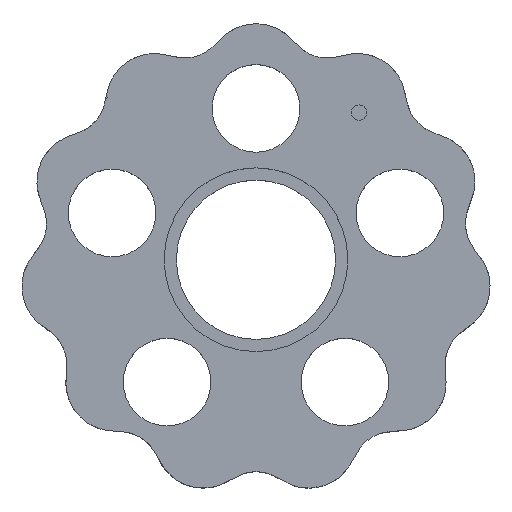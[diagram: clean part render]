
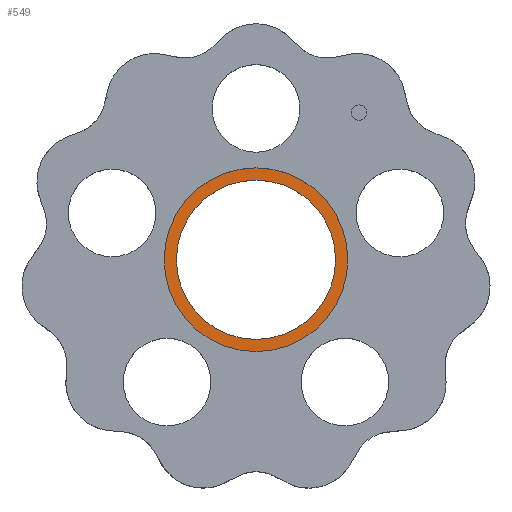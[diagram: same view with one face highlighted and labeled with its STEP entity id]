
A CAD part, top view. The second image highlights one B-rep face of the part: STEP entity #549.
In plain terms, the highlighted planar face has unit normal (0, 0, 1).
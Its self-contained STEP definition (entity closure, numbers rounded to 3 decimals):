
#51 = EDGE_CURVE ( 'NONE', #769, #924, #1388, .T. ) ;
#116 = DIRECTION ( 'NONE',  ( -1., 0., 0. ) ) ;
#119 = DIRECTION ( 'NONE',  ( -1., 0., 0. ) ) ;
#125 = DIRECTION ( 'NONE',  ( -1., 0., 0. ) ) ;
#129 = FACE_BOUND ( 'NONE', #670, .T. ) ;
#207 = CARTESIAN_POINT ( 'NONE',  ( 0., 1.503, 2.65 ) ) ;
#236 = FACE_OUTER_BOUND ( 'NONE', #791, .T. ) ;
#257 = EDGE_CURVE ( 'NONE', #924, #769, #1044, .T. ) ;
#289 = VERTEX_POINT ( 'NONE', #971 ) ;
#317 = DIRECTION ( 'NONE',  ( 0., 0., -1. ) ) ;
#346 = DIRECTION ( 'NONE',  ( 0., 0., 1. ) ) ;
#381 = DIRECTION ( 'NONE',  ( -1., 0., 0. ) ) ;
#396 = AXIS2_PLACEMENT_3D ( 'NONE', #787, #467, #119 ) ;
#440 = CARTESIAN_POINT ( 'NONE',  ( 0., 1.503, 2.65 ) ) ;
#467 = DIRECTION ( 'NONE',  ( 0., 0., 1. ) ) ;
#497 = CARTESIAN_POINT ( 'NONE',  ( 0., 1.503, 2.65 ) ) ;
#549 = ADVANCED_FACE ( 'NONE', ( #129, #236 ), #789, .F. ) ;
#561 = EDGE_CURVE ( 'NONE', #289, #685, #1077, .T. ) ;
#568 = CARTESIAN_POINT ( 'NONE',  ( 0., 1.503, 2.65 ) ) ;
#670 = EDGE_LOOP ( 'NONE', ( #961, #1362 ) ) ;
#685 = VERTEX_POINT ( 'NONE', #883 ) ;
#695 = CIRCLE ( 'NONE', #396, 11.54 ) ;
#707 = DIRECTION ( 'NONE',  ( 0., 0., -1. ) ) ;
#747 = CARTESIAN_POINT ( 'NONE',  ( -10., 1.503, 2.65 ) ) ;
#769 = VERTEX_POINT ( 'NONE', #747 ) ;
#775 = AXIS2_PLACEMENT_3D ( 'NONE', #207, #317, #1391 ) ;
#787 = CARTESIAN_POINT ( 'NONE',  ( 0., 1.503, 2.65 ) ) ;
#789 = PLANE ( 'NONE',  #1305 ) ;
#791 = EDGE_LOOP ( 'NONE', ( #826, #1128 ) ) ;
#826 = ORIENTED_EDGE ( 'NONE', *, *, #1394, .T. ) ;
#883 = CARTESIAN_POINT ( 'NONE',  ( 11.54, 1.503, 2.65 ) ) ;
#924 = VERTEX_POINT ( 'NONE', #1066 ) ;
#961 = ORIENTED_EDGE ( 'NONE', *, *, #51, .T. ) ;
#971 = CARTESIAN_POINT ( 'NONE',  ( -11.54, 1.503, 2.65 ) ) ;
#1015 = AXIS2_PLACEMENT_3D ( 'NONE', #440, #346, #125 ) ;
#1044 = CIRCLE ( 'NONE', #775, 10. ) ;
#1066 = CARTESIAN_POINT ( 'NONE',  ( 10., 1.503, 2.65 ) ) ;
#1077 = CIRCLE ( 'NONE', #1015, 11.54 ) ;
#1102 = DIRECTION ( 'NONE',  ( 0., 0., -1. ) ) ;
#1128 = ORIENTED_EDGE ( 'NONE', *, *, #561, .T. ) ;
#1162 = AXIS2_PLACEMENT_3D ( 'NONE', #497, #707, #381 ) ;
#1305 = AXIS2_PLACEMENT_3D ( 'NONE', #568, #1102, #116 ) ;
#1362 = ORIENTED_EDGE ( 'NONE', *, *, #257, .T. ) ;
#1388 = CIRCLE ( 'NONE', #1162, 10. ) ;
#1391 = DIRECTION ( 'NONE',  ( -1., 0., 0. ) ) ;
#1394 = EDGE_CURVE ( 'NONE', #685, #289, #695, .T. ) ;
